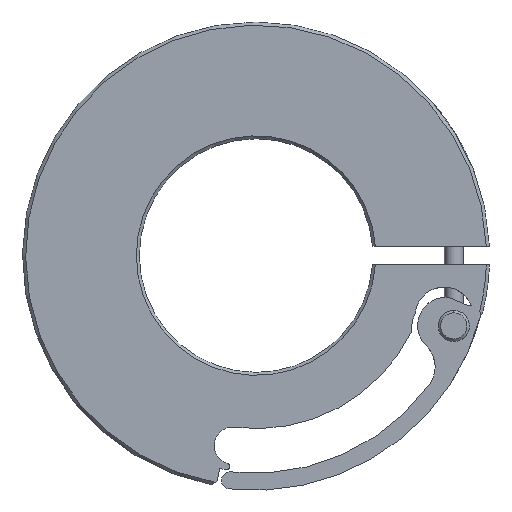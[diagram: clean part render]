
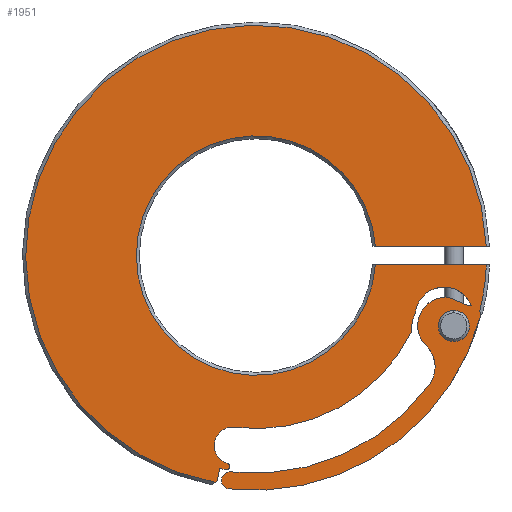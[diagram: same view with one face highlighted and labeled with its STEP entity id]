
A CAD part, front view. The second image highlights one B-rep face of the part: STEP entity #1951.
In plain terms, the highlighted planar face has unit normal (0, -1, 0).
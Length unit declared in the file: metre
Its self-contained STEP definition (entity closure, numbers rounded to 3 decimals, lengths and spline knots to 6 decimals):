
#330=CARTESIAN_POINT('',(-0.046163,0.005306,
0.029751));
#332=CARTESIAN_POINT('',(-0.052796,0.005306,
0.026042));
#333=DIRECTION('',(0.,-1.,0.));
#334=DIRECTION('',(0.049,0.,0.999));
#335=AXIS2_PLACEMENT_3D('',#332,#333,#334);
#337=CARTESIAN_POINT('',(-0.052796,0.005306,
0.026042));
#338=DIRECTION('',(0.,-1.,0.));
#339=DIRECTION('',(-0.049,0.,-0.999));
#340=AXIS2_PLACEMENT_3D('',#337,#338,#339);
#342=CARTESIAN_POINT('',(-0.048449,0.005306,
0.0288));
#343=DIRECTION('',(0.,1.,0.));
#344=DIRECTION('',(-0.187,0.,0.982));
#345=AXIS2_PLACEMENT_3D('',#342,#343,#344);
#347=CARTESIAN_POINT('',(-0.056673,0.005306,
0.024663));
#348=DIRECTION('',(0.,-1.,0.));
#349=DIRECTION('',(0.785,0.,0.62));
#350=AXIS2_PLACEMENT_3D('',#347,#348,#349);
#352=CARTESIAN_POINT('',(-0.055282,0.005306,
0.028534));
#353=DIRECTION('',(0.,-1.,0.));
#354=DIRECTION('',(0.927,0.,0.375));
#355=AXIS2_PLACEMENT_3D('',#352,#353,#354);
#357=CARTESIAN_POINT('',(-0.05426,0.005306,
0.025171));
#358=DIRECTION('',(0.,-1.,0.));
#359=DIRECTION('',(-0.901,0.,0.435));
#360=AXIS2_PLACEMENT_3D('',#357,#358,#359);
#362=CARTESIAN_POINT('',(-0.103583,0.005306,
0.044104));
#363=DIRECTION('',(0.,1.,0.));
#364=DIRECTION('',(0.899,0.,-0.439));
#365=AXIS2_PLACEMENT_3D('',#362,#363,#364);
#367=CARTESIAN_POINT('',(-0.109579,0.005306,
-0.004729));
#368=DIRECTION('',(0.,-1.,0.));
#369=DIRECTION('',(0.053,0.,0.999));
#370=AXIS2_PLACEMENT_3D('',#367,#368,#369);
#372=CARTESIAN_POINT('',(-0.111195,0.005306,
-0.010058));
#373=DIRECTION('',(0.,1.,0.));
#374=DIRECTION('',(0.29,0.,0.957));
#375=AXIS2_PLACEMENT_3D('',#372,#373,#374);
#377=CARTESIAN_POINT('',(-0.103583,0.005306,
0.044104));
#378=DIRECTION('',(0.,1.,0.));
#379=DIRECTION('',(-0.138,0.,-0.99));
#380=AXIS2_PLACEMENT_3D('',#377,#378,#379);
#382=DIRECTION('',(-0.199,0.,-0.98));
#383=VECTOR('',#382,0.003233);
#384=CARTESIAN_POINT('',(-0.112916,0.005306,
-0.010605));
#385=LINE('',#384,#383);
#386=DIRECTION('',(-0.834,0.,-0.552));
#387=VECTOR('',#386,0.000663);
#388=CARTESIAN_POINT('',(-0.11356,0.005306,
-0.013773));
#389=LINE('',#388,#387);
#390=CARTESIAN_POINT('',(-0.103583,0.005306,
0.044104));
#391=DIRECTION('',(0.,1.,0.));
#392=DIRECTION('',(-0.178,0.,-0.984));
#393=AXIS2_PLACEMENT_3D('',#390,#391,#392);
#395=DIRECTION('',(-1.,0.,0.));
#396=VECTOR('',#395,0.02847);
#397=CARTESIAN_POINT('',(-0.044444,0.005306,
0.046485));
#398=LINE('',#397,#396);
#399=CARTESIAN_POINT('',(-0.103583,0.005306,
0.044104));
#400=DIRECTION('',(0.,-1.,0.));
#401=DIRECTION('',(0.997,0.,0.077));
#402=AXIS2_PLACEMENT_3D('',#399,#400,#401);
#404=CARTESIAN_POINT('',(-0.103583,0.005306,
0.044104));
#405=DIRECTION('',(0.,1.,0.));
#406=DIRECTION('',(0.999,0.,-0.04));
#407=AXIS2_PLACEMENT_3D('',#404,#405,#406);
#409=CARTESIAN_POINT('',(-0.048449,0.005306,
0.0288));
#410=DIRECTION('',(0.,1.,0.));
#411=DIRECTION('',(0.923,0.,0.384));
#412=AXIS2_PLACEMENT_3D('',#409,#410,#411);
#414=CARTESIAN_POINT('',(-0.103976,0.005306,
0.043825));
#415=DIRECTION('',(0.,1.,0.));
#416=DIRECTION('',(0.965,0.,-0.261));
#417=AXIS2_PLACEMENT_3D('',#414,#415,#416);
#419=CARTESIAN_POINT('',(-0.110313,0.005306,
-0.013642));
#420=DIRECTION('',(0.,1.,0.));
#421=DIRECTION('',(-0.049,0.,-0.999));
#422=AXIS2_PLACEMENT_3D('',#419,#420,#421);
#424=CARTESIAN_POINT('',(-0.103976,0.005306,
0.043825));
#425=DIRECTION('',(0.,-1.,0.));
#426=DIRECTION('',(-0.11,0.,-0.994));
#427=AXIS2_PLACEMENT_3D('',#424,#425,#426);
#429=CARTESIAN_POINT('',(-0.065213,0.005306,
0.015504));
#430=DIRECTION('',(0.,-1.,0.));
#431=DIRECTION('',(0.807,0.,-0.59));
#432=AXIS2_PLACEMENT_3D('',#429,#430,#431);
#434=CARTESIAN_POINT('',(-0.054839,0.005306,
0.026142));
#435=DIRECTION('',(0.,1.,0.));
#436=DIRECTION('',(-0.698,0.,-0.716));
#437=AXIS2_PLACEMENT_3D('',#434,#435,#436);
#439=DIRECTION('',(0.922,0.,-0.387));
#440=VECTOR('',#439,0.005374);
#441=CARTESIAN_POINT('',(-0.053866,0.005306,
0.033315));
#442=LINE('',#441,#440);
#765=CARTESIAN_POINT('',(-0.044444,0.005306,
0.041723));
#767=DIRECTION('',(-1.,0.,0.));
#768=VECTOR('',#767,0.02847);
#769=CARTESIAN_POINT('',(-0.044444,0.005306,
0.041723));
#770=LINE('',#769,#768);
#902=CARTESIAN_POINT('',(-0.072913,0.005306,
0.046485));
#936=CARTESIAN_POINT('',(-0.114113,0.005306,
-0.014139));
#1373=CARTESIAN_POINT('',(-0.053866,0.005306,
0.033315));
#1374=VERTEX_POINT('',#1373);
#1375=CARTESIAN_POINT('',(-0.059893,0.005306,
0.020959));
#1376=VERTEX_POINT('',#1375);
#1385=CARTESIAN_POINT('',(-0.052601,0.005306,
0.030037));
#1386=CARTESIAN_POINT('',(-0.05299,0.005306,
0.022047));
#1387=VERTEX_POINT('',#1385);
#1388=VERTEX_POINT('',#1386);
#1389=CARTESIAN_POINT('',(-0.048911,0.005306,
0.031233));
#1390=VERTEX_POINT('',#1389);
#1391=CARTESIAN_POINT('',(-0.059061,0.005306,
0.011009));
#1392=VERTEX_POINT('',#1391);
#1397=CARTESIAN_POINT('',(-0.046059,0.005306,
0.028153));
#1398=CARTESIAN_POINT('',(-0.110419,0.005306,
-0.015828));
#1399=VERTEX_POINT('',#1397);
#1400=VERTEX_POINT('',#1398);
#1429=CARTESIAN_POINT('',(-0.110073,0.005306,
-0.011466));
#1430=VERTEX_POINT('',#1429);
#1447=VERTEX_POINT('',#902);
#1448=CARTESIAN_POINT('',(-0.044444,0.005306,
0.046485));
#1449=VERTEX_POINT('',#1448);
#1485=VERTEX_POINT('',#936);
#1486=CARTESIAN_POINT('',(-0.11356,0.005306,
-0.013773));
#1487=VERTEX_POINT('',#1486);
#1488=CARTESIAN_POINT('',(-0.062724,0.005306,
0.029255));
#1489=CARTESIAN_POINT('',(-0.063641,0.005306,
0.0246));
#1490=VERTEX_POINT('',#1488);
#1491=VERTEX_POINT('',#1489);
#1492=CARTESIAN_POINT('',(-0.109328,0.005306,
0.000027));
#1493=CARTESIAN_POINT('',(-0.110961,0.005306,
-0.009287));
#1494=VERTEX_POINT('',#1492);
#1495=VERTEX_POINT('',#1493);
#1496=CARTESIAN_POINT('',(-0.111247,0.005306,
-0.010863));
#1497=CARTESIAN_POINT('',(-0.112916,0.005306,
-0.010605));
#1498=VERTEX_POINT('',#1496);
#1499=VERTEX_POINT('',#1497);
#1501=CARTESIAN_POINT('',(-0.048351,0.005306,
0.031338));
#1503=VERTEX_POINT('',#1501);
#1519=VERTEX_POINT('',#765);
#1520=CARTESIAN_POINT('',(-0.072913,0.005306,
0.041723));
#1521=VERTEX_POINT('',#1520);
#1589=CARTESIAN_POINT('',(-0.048299,0.005306,
0.031272));
#1590=VERTEX_POINT('',#1589);
#1593=VERTEX_POINT('',#330);
#1897=CARTESIAN_POINT('',(-0.079189,0.005306,
0.008545));
#1898=DIRECTION('',(0.,1.,0.));
#1899=DIRECTION('',(-0.049,0.,-0.999));
#1900=AXIS2_PLACEMENT_3D('',#1897,#1898,#1899);
#1901=PLANE('',#1900);
#1902=ORIENTED_EDGE('',*,*,#1872,.T.);
#1903=ORIENTED_EDGE('',*,*,#1804,.T.);
#1905=ORIENTED_EDGE('',*,*,#1904,.T.);
#1907=ORIENTED_EDGE('',*,*,#1906,.T.);
#1909=ORIENTED_EDGE('',*,*,#1908,.T.);
#1911=ORIENTED_EDGE('',*,*,#1910,.T.);
#1913=ORIENTED_EDGE('',*,*,#1912,.T.);
#1915=ORIENTED_EDGE('',*,*,#1914,.T.);
#1917=ORIENTED_EDGE('',*,*,#1916,.T.);
#1919=ORIENTED_EDGE('',*,*,#1918,.T.);
#1921=ORIENTED_EDGE('',*,*,#1920,.T.);
#1923=ORIENTED_EDGE('',*,*,#1922,.T.);
#1925=ORIENTED_EDGE('',*,*,#1924,.T.);
#1927=ORIENTED_EDGE('',*,*,#1926,.F.);
#1929=ORIENTED_EDGE('',*,*,#1928,.T.);
#1930=ORIENTED_EDGE('',*,*,#1890,.T.);
#1932=ORIENTED_EDGE('',*,*,#1931,.T.);
#1934=ORIENTED_EDGE('',*,*,#1933,.T.);
#1936=ORIENTED_EDGE('',*,*,#1935,.T.);
#1938=ORIENTED_EDGE('',*,*,#1937,.T.);
#1940=ORIENTED_EDGE('',*,*,#1939,.T.);
#1942=ORIENTED_EDGE('',*,*,#1941,.T.);
#1943=EDGE_LOOP('',(#1902,#1903,#1905,#1907,#1909,#1911,#1913,#1915,#1917,#1919,
#1921,#1923,#1925,#1927,#1929,#1930,#1932,#1934,#1936,#1938,#1940,#1942));
#1944=FACE_OUTER_BOUND('',#1943,.F.);
#1946=ORIENTED_EDGE('',*,*,#1945,.T.);
#1948=ORIENTED_EDGE('',*,*,#1947,.T.);
#1949=EDGE_LOOP('',(#1946,#1948));
#1950=FACE_BOUND('',#1949,.F.);
#336=CIRCLE('',#335,0.004);
#341=CIRCLE('',#340,0.004);
#346=CIRCLE('',#345,0.002476);
#351=CIRCLE('',#350,0.010668);
#356=CIRCLE('',#355,0.007477);
#361=CIRCLE('',#360,0.009398);
#366=CIRCLE('',#365,0.04445);
#371=CIRCLE('',#370,0.004763);
#376=CIRCLE('',#375,0.000807);
#381=CIRCLE('',#380,0.055499);
#394=CIRCLE('',#393,0.059187);
#403=CIRCLE('',#402,0.030762);
#408=CIRCLE('',#407,0.059187);
#413=CIRCLE('',#412,0.002476);
#418=CIRCLE('',#417,0.06);
#423=CIRCLE('',#422,0.002189);
#428=CIRCLE('',#427,0.055626);
#433=CIRCLE('',#432,0.00762);
#438=CIRCLE('',#437,0.007239);
#1804=EDGE_CURVE('',#1590,#1503,#351,.T.);
#1872=EDGE_CURVE('',#1390,#1590,#346,.T.);
#1890=EDGE_CURVE('',#1593,#1399,#413,.T.);
#1904=EDGE_CURVE('',#1503,#1490,#356,.T.);
#1906=EDGE_CURVE('',#1490,#1491,#361,.T.);
#1908=EDGE_CURVE('',#1491,#1494,#366,.T.);
#1910=EDGE_CURVE('',#1494,#1495,#371,.T.);
#1912=EDGE_CURVE('',#1495,#1498,#376,.T.);
#1914=EDGE_CURVE('',#1498,#1499,#381,.T.);
#1916=EDGE_CURVE('',#1499,#1487,#385,.T.);
#1918=EDGE_CURVE('',#1487,#1485,#389,.T.);
#1920=EDGE_CURVE('',#1485,#1449,#394,.T.);
#1922=EDGE_CURVE('',#1449,#1447,#398,.T.);
#1924=EDGE_CURVE('',#1447,#1521,#403,.T.);
#1926=EDGE_CURVE('',#1519,#1521,#770,.T.);
#1928=EDGE_CURVE('',#1519,#1593,#408,.T.);
#1931=EDGE_CURVE('',#1399,#1400,#418,.T.);
#1933=EDGE_CURVE('',#1400,#1430,#423,.T.);
#1935=EDGE_CURVE('',#1430,#1392,#428,.T.);
#1937=EDGE_CURVE('',#1392,#1376,#433,.T.);
#1939=EDGE_CURVE('',#1376,#1374,#438,.T.);
#1941=EDGE_CURVE('',#1374,#1390,#442,.T.);
#1945=EDGE_CURVE('',#1387,#1388,#336,.T.);
#1947=EDGE_CURVE('',#1388,#1387,#341,.T.);
#1951=ADVANCED_FACE('',(#1944,#1950),#1901,.F.);
